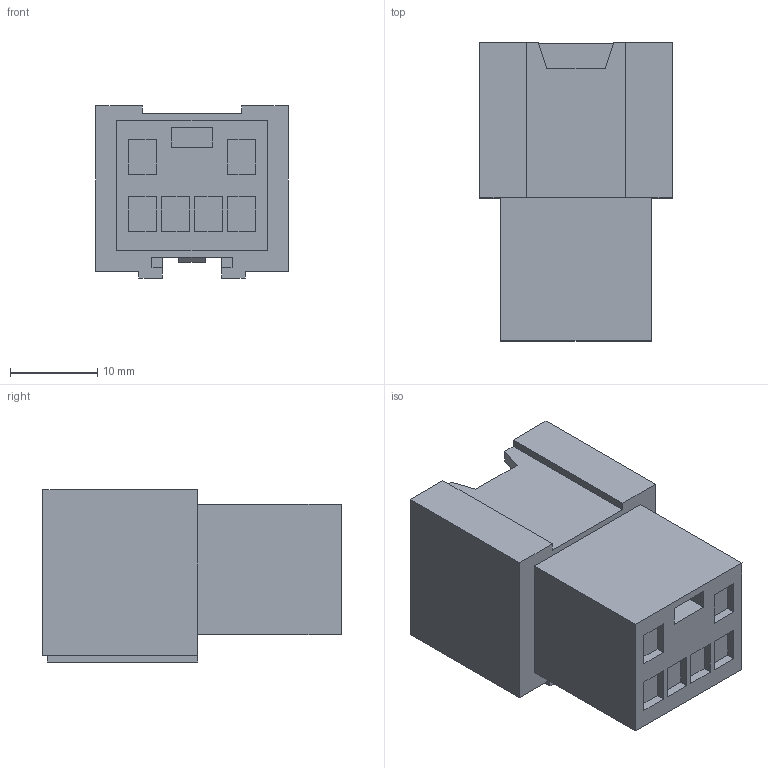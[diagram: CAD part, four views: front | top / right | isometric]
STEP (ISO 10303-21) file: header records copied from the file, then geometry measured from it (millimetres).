
FILE_DESCRIPTION(('CATIA V5 STEP','CAx-IF Rec.Pracs.--- Model Styling and Organization---1.4--- 2014-01-23'),'2;1');
FILE_NAME('\\fss02.ad.sws.co.jp\fs100016\第3設計部\共有\コネクタ第1Gr\【91】一時保管\★カタログ用参考資料\簡易３D\stp_送付用\6098-6970.stp','2024-10-07T06:38:34+00:00',('none'),('none'),'CATIA Version 5-6 Release 2018 SP4','CATIA V5 STEP AP214','none');
FILE_SCHEMA(('AUTOMOTIVE_DESIGN { 1 0 10303 214 1 1 1 1 }'));
Length unit declared in the file: millimetre
Products named in the file (1): 6098-6970
Bounding box: 22.1 x 34.25 x 19.8 mm (x, y, z)
Volume: 7158.2 mm3; surface area: 5299.7 mm2
Topology: 1 solids, 1 shells, 131 faces, 346 edges, 230 vertices
Faces by surface type: plane 131
Entity records: 3730 total; most frequent: ORIENTED_EDGE 692, CARTESIAN_POINT 656, DIRECTION 504, VECTOR 346, EDGE_CURVE 346, LINE 346, VERTEX_POINT 230, EDGE_LOOP 146
